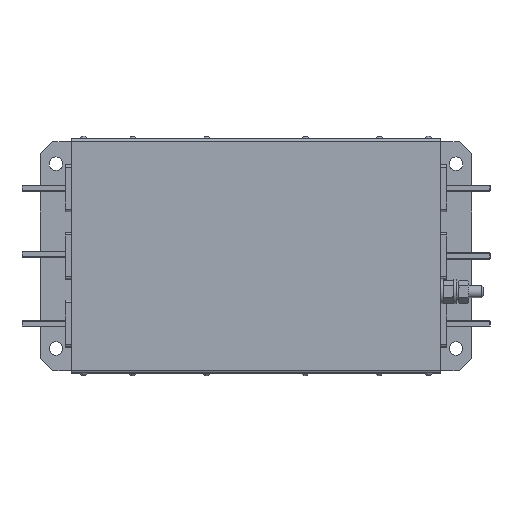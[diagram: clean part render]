
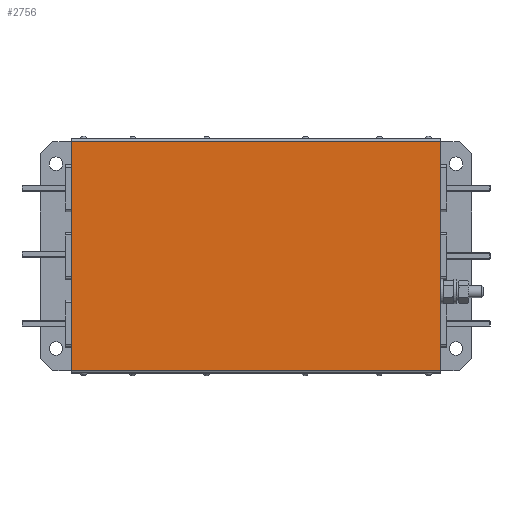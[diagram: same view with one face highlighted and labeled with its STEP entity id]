
A CAD part, top view. The second image highlights one B-rep face of the part: STEP entity #2756.
In plain terms, the highlighted planar face has unit normal (0, 0, 1).
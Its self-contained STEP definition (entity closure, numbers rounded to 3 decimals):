
#2756=ADVANCED_FACE('',(#4868),#4870,.T.);
#4868=FACE_BOUND('',#4869,.T.);
#4869=EDGE_LOOP('',(#6894,#6895,#6896,#6897));
#4870=PLANE('',#4871);
#4871=AXIS2_PLACEMENT_3D('',#4872,#4873,#4874);
#4872=CARTESIAN_POINT('',(0.,0.,1.));
#4873=DIRECTION('',(0.,0.,1.));
#4874=DIRECTION('',(1.,0.,0.));
#6894=ORIENTED_EDGE('',*,*,#7868,.T.);
#6895=ORIENTED_EDGE('',*,*,#7884,.T.);
#6896=ORIENTED_EDGE('',*,*,#7878,.T.);
#6897=ORIENTED_EDGE('',*,*,#7885,.T.);
#7868=EDGE_CURVE('',#8751,#8749,#8752,.T.);
#7878=EDGE_CURVE('',#8765,#8763,#8766,.T.);
#7884=EDGE_CURVE('',#8749,#8765,#8772,.T.);
#7885=EDGE_CURVE('',#8763,#8751,#8773,.T.);
#8749=VERTEX_POINT('',#10635);
#8751=VERTEX_POINT('',#10640);
#8752=LINE('',#10641,#10642);
#8763=VERTEX_POINT('',#10673);
#8765=VERTEX_POINT('',#10678);
#8766=LINE('',#10679,#10680);
#8772=LINE('',#10698,#10699);
#8773=LINE('',#10701,#10702);
#10635=CARTESIAN_POINT('',(150.,-93.,1.));
#10640=CARTESIAN_POINT('',(-150.,-93.,1.));
#10641=CARTESIAN_POINT('',(-150.,-93.,1.));
#10642=VECTOR('',#10643,1.);
#10643=DIRECTION('',(1.,0.,0.));
#10673=CARTESIAN_POINT('',(-150.,93.,1.));
#10678=CARTESIAN_POINT('',(150.,93.,1.));
#10679=CARTESIAN_POINT('',(150.,93.,1.));
#10680=VECTOR('',#10681,1.);
#10681=DIRECTION('',(-1.,0.,0.));
#10698=CARTESIAN_POINT('',(150.,-93.,1.));
#10699=VECTOR('',#10700,1.);
#10700=DIRECTION('',(0.,1.,0.));
#10701=CARTESIAN_POINT('',(-150.,93.,1.));
#10702=VECTOR('',#10703,1.);
#10703=DIRECTION('',(0.,-1.,0.));
